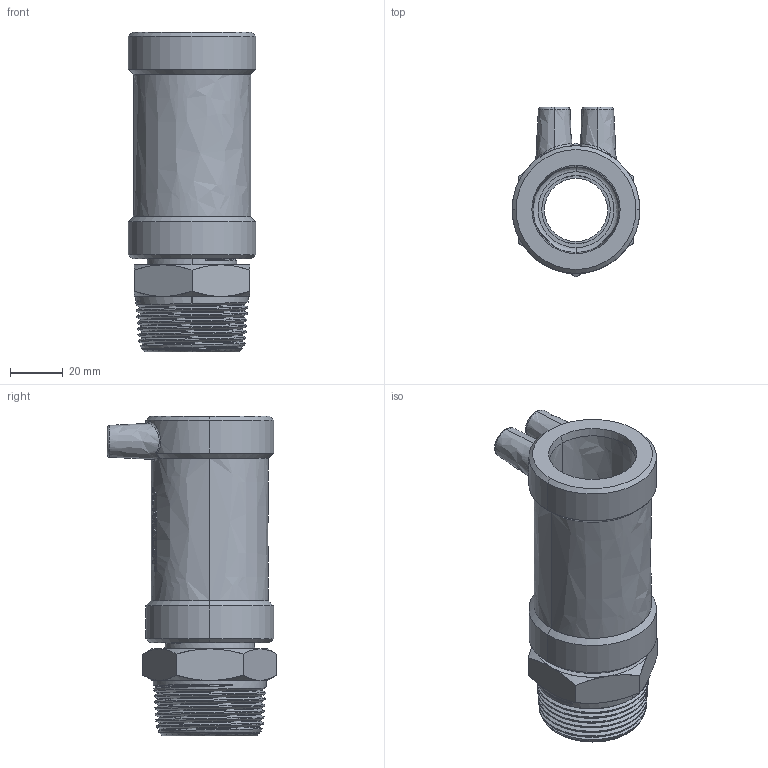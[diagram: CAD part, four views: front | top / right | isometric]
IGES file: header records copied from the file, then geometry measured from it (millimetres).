
Start section:  PTC IGES file: mun_d32_1_1-4_01.igs
Global section: file name: mun_d32_1_1-4_01.igs; native system: Pro/ENGINEER by Parametric Technology Corporation; preprocessor: 2011490; author: mtunjic; organization: Unknown; date: 20130823.152522; units: millimetre
Bounding box: 48.5 x 64.3 x 121.3 mm (x, y, z)
Surface area: 36231.5 mm2 (no closed solid volume)
Topology: 0 solids, 0 shells, 246 faces, 1248 edges, 1248 vertices
Faces by surface type: bspline 246
